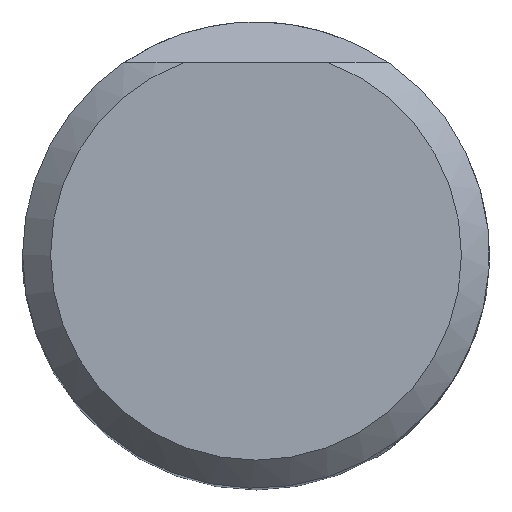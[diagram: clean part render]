
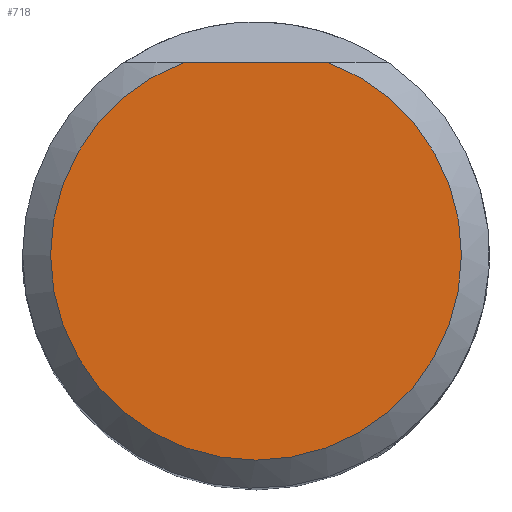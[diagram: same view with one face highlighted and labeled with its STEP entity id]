
A CAD part, top view. The second image highlights one B-rep face of the part: STEP entity #718.
In plain terms, the highlighted planar face has unit normal (0, 0, 1).
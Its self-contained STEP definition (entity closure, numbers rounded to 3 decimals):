
#264=PLANE('',#4150);
#353=LINE('',#6286,#490);
#490=VECTOR('',#4660,1.);
#718=ADVANCED_FACE('',(#976),#264,.F.);
#976=FACE_OUTER_BOUND('',#1178,.T.);
#1178=EDGE_LOOP('',(#1908,#1909));
#1677=CIRCLE('',#4149,10.997);
#1908=ORIENTED_EDGE('',*,*,#3407,.F.);
#1909=ORIENTED_EDGE('',*,*,#3408,.T.);
#2992=VERTEX_POINT('',#6284);
#2993=VERTEX_POINT('',#6285);
#3407=EDGE_CURVE('',#2992,#2993,#1677,.T.);
#3408=EDGE_CURVE('',#2992,#2993,#353,.T.);
#4149=AXIS2_PLACEMENT_3D('',#6283,#4658,#4659);
#4150=AXIS2_PLACEMENT_3D('',#6287,#4661,#4662);
#4658=DIRECTION('',(0.,0.,-1.));
#4659=DIRECTION('',(-1.,0.,0.));
#4660=DIRECTION('',(-1.,0.,0.));
#4661=DIRECTION('',(0.,0.,-1.));
#4662=DIRECTION('',(-1.,0.,0.));
#6283=CARTESIAN_POINT('',(0.,0.,0.013));
#6284=CARTESIAN_POINT('',(3.843,10.303,0.013));
#6285=CARTESIAN_POINT('',(-3.843,10.303,0.013));
#6286=CARTESIAN_POINT('',(0.,10.303,0.013));
#6287=CARTESIAN_POINT('',(0.,0.,0.013));
